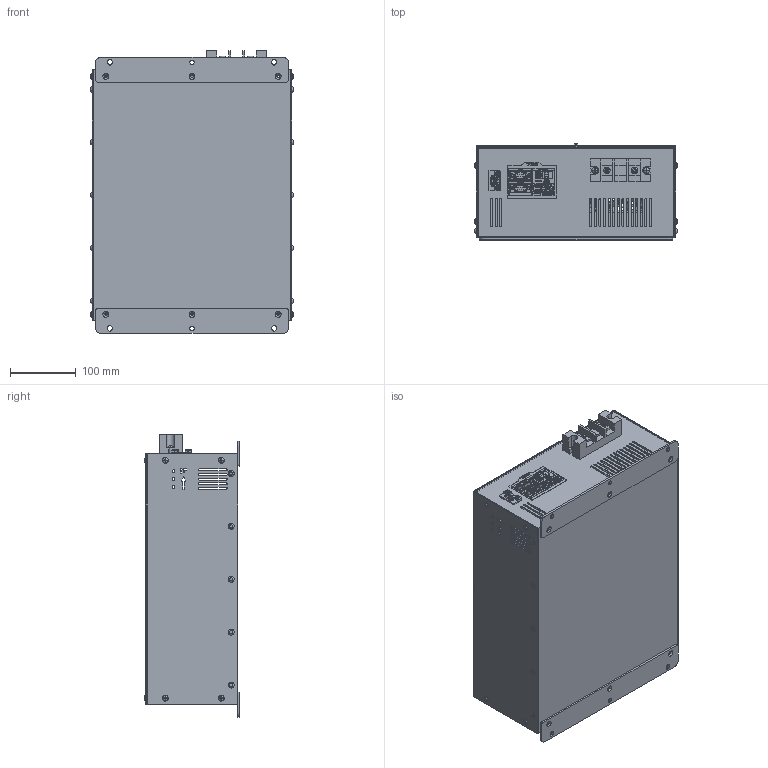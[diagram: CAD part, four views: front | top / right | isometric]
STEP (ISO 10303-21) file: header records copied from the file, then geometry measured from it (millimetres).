
FILE_DESCRIPTION(/* description */ ('','CAx-IF Rec.Pracs.---Representation and Presentation of Product Manufacturing Information (PMI)---4.0---2014-10-13'),/* implementation_level */ '2;1');
FILE_NAME(/* name */ 'H:\04_배터리_전기종\고부하용 배터리 케이스_3D\[NEW] X4COM 고객용\X4COM.stp',/* time_stamp */ '2021-12-10T16:36:08+09:00',/* author */ ('jjang'),/* organization */ (''),/* preprocessor_version */ 'ST-DEVELOPER v18.1',/* originating_system */ 'Autodesk Inventor 2021',/* authorisation */ '');
FILE_SCHEMA (('AP242_MANAGED_MODEL_BASED_3D_ENGINEERING_MIM_LF { 1 0 10303 442 1 1 4 }'));
Products named in the file (3): X4COM; BRACKET; CASE ASSEMBLY
Assembly tree (3 placements, depth 2):
  X4COM
    BRACKET  x2
    CASE ASSEMBLY
Bounding box: 309.24 x 145.97 x 430 mm (x, y, z)
Volume: 772629.8 mm3; surface area: 1002102.2 mm2
Topology: 13 solids, 13 shells, 5725 faces, 15564 edges, 10302 vertices
Faces by surface type: plane 2857, bspline 1604, cylinder 1082, torus 122, cone 33, sphere 27
Full cylindrical faces by diameter (mm): 0.61 x27, 0.635 x9, 0.9 x6, 1.397 x9, 2.286 x9, 2.5 x2, 2.8 x6, 2.957 x4, 3 x2, 3.048 x4, 3.6 x12, 3.7 x2, 3.8 x20, 4 x17, 4.3 x12, 4.5 x16, 5 x17, 5.3 x20, 5.4 x2, 5.429 x2, 5.5 x10, 6 x2, 6.082 x1, 6.6 x2, 8 x1, 8.8 x10, 9.2 x2, 10 x8, 25.4 x3, 55.4 x3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
Entity records: 216300 total; most frequent: CARTESIAN_POINT 75385, ORIENTED_EDGE 30866, DIRECTION 23749, EDGE_CURVE 15433, VERTEX_POINT 10181, LINE 8957, VECTOR 8957, AXIS2_PLACEMENT_3D 7396
